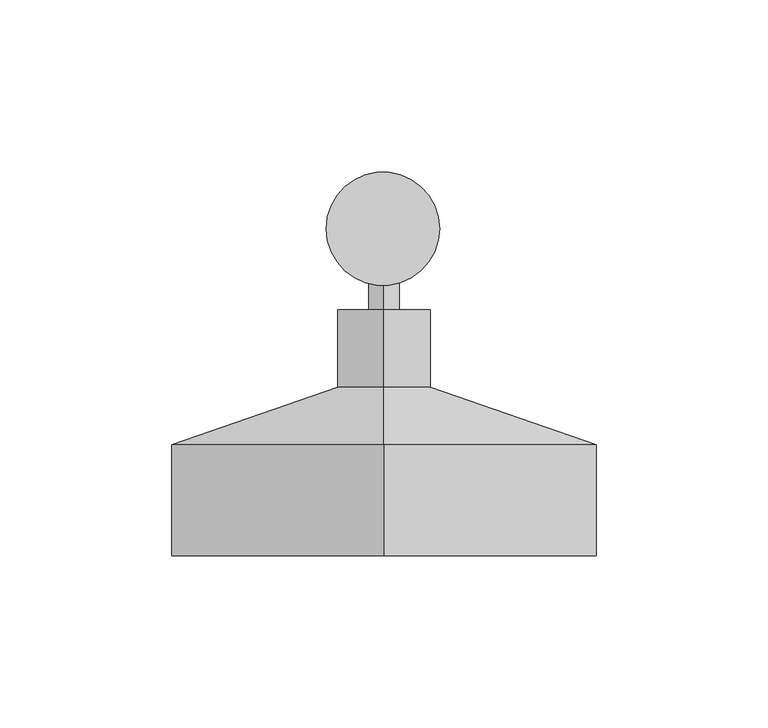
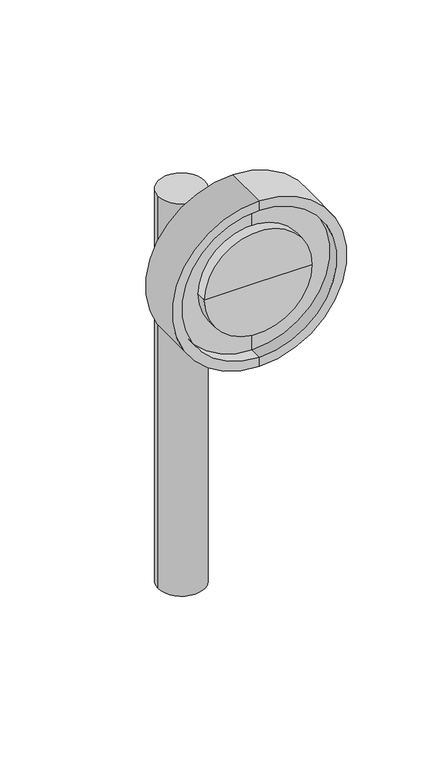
"""IFC4 building model written with IfcOpenShell, lengths in millimetres: flow terminal geometry, Deca_Chuveiro de Parede_AcquaPlus_1990.C.CT : 1990.C.CT."""

from ifc_helpers import new_model, si_unit, point, frame, frame_2d, origin, origin_with_axes, place, context, project, spatial, polyline, circle_curve, ellipse_curve, trimmed, segment, composite_curve, outline, extrude, source, transform, mapped, element, save
from ifc_brep_helpers import plane_surface, cylinder_surface, revolved_surface, advanced_brep


def flow_terminal_de63d3b9(model_context):
    return source(origin(), model_context, "Body", "SolidModel", [
        extrude(outline(composite_curve([segment(trimmed(circle_curve(frame_2d((0.0610987, 0.3797373)), 16.4815209), [point((-16.4204222, 0.3797373))], [point((16.5426197, 0.3797373))], False, "CARTESIAN"), True, "CONTINUOUS"), segment(trimmed(circle_curve(frame_2d((0.0610987, 0.3797373)), 16.4815209), [point((16.5426197, 0.3797373))], [point((-16.4204222, 0.3797373))], False, "CARTESIAN"), True, "CONTINUOUS")], self_intersect=False)), origin_with_axes(), (0.0, 0.0, 1.0), 293.6487953),
        advanced_brep(
        [(0.3802785, -13.896851, 280.0), (0.3802785, -12.9861585, 285.1647936), (0.3802785, -14.8075434, 274.8352064), (0.3802785, -27.1698069, 277.7761711), (0.3802785, -25.6087554, 286.6293339), (0.3802785, -26.3892811, 282.2027525), (0.3802785, -15.4155889, 275.7035853), (0.3802785, -13.8545374, 284.5567482)],
        [
            (0, 1),
            (1, 2, circle_curve(frame((0.3802785, -13.896851, 280.0), z_axis=(0.0, 0.9848077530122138, -0.1736481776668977), x_axis=(0.0, 0.1736481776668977, 0.9848077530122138)), 5.2444689)),
            (2, 0),
            (2, 1, circle_curve(frame((0.3802785, -13.896851, 280.0), z_axis=(0.0, 0.9848077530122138, -0.1736481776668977), x_axis=(0.0, 0.1736481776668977, 0.9848077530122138)), 5.2444689)),
            (3, 4, circle_curve(frame((0.3802785, -26.3892811, 282.2027525), z_axis=(0.0, -0.9848077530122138, 0.1736481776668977), x_axis=(0.0, 0.1736481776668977, 0.9848077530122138)), 4.4948686)),
            (4, 5),
            (5, 3),
            (4, 3, circle_curve(frame((0.3802785, -26.3892811, 282.2027525), z_axis=(0.0, -0.9848077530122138, 0.1736481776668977), x_axis=(0.0, 0.1736481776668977, 0.9848077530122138)), 4.4948686)),
            (6, 7, circle_curve(frame((0.3802785, -14.6350631, 280.1301667), z_axis=(0.0, -0.9848077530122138, 0.1736481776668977), x_axis=(0.0, 0.1736481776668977, 0.9848077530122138)), 4.4948686)),
            (7, 4),
            (3, 6),
            (7, 6, circle_curve(frame((0.3802785, -14.6350631, 280.1301667), z_axis=(0.0, -0.9848077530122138, 0.1736481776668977), x_axis=(0.0, 0.1736481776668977, 0.9848077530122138)), 4.4948686)),
            (1, 7, circle_curve(frame((0.3802785, -13.8545374, 285.4808577), z_axis=(-1.0, 0.0, 0.0), x_axis=(0.0, 0.0, -1.0)), 0.9241095)),
            (6, 2, circle_curve(frame((0.3802785, -15.731653, 274.8352064), z_axis=(-1.0, 0.0, 0.0), x_axis=(0.0, 0.34202014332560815, 0.9396926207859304)), 0.9241095)),
        ],
        [
            plane_surface(frame((0.3802785, -13.896851, 280.0), z_axis=(0.0, 0.9848077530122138, -0.1736481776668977), x_axis=(0.0, 0.1736481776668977, 0.9848077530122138))),
            plane_surface(frame((0.3802785, -26.3892811, 282.2027525), z_axis=(0.0, -0.9848077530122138, 0.1736481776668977), x_axis=(0.0, 0.1736481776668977, 0.9848077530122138))),
            cylinder_surface(frame((0.3802785, -13.896851, 280.0), z_axis=(0.0, 0.9848077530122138, -0.1736481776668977), x_axis=(0.0, 0.1736481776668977, 0.9848077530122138)), 4.4948686),
            revolved_surface(trimmed(ellipse_curve(frame((0.3802785, -13.8545374, 285.4808577), z_axis=(1.0, 0.0, 0.0), x_axis=(0.0, 0.0, -1.0)), 0.9241095, 0.9241095), [point((0.3802785, -13.8545374, 284.5567482))], [point((0.3802785, -12.9861585, 285.1647936))], True, "CARTESIAN"), (0.3802785, -13.896851, 280.0), (0.0, 0.9848077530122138, -0.1736481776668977)),
        ],
        [
            (0, [[1, 2, 3]]),
            (0, [[-3, 4, -1]]),
            (1, [[5, 6, 7]]),
            (1, [[8, -7, -6]]),
            (2, [[9, 10, -5, 11]]),
            (2, [[12, -11, -8, -10]]),
            (3, [[-2, 13, -9, 14]]),
            (3, [[-4, -14, -12, -13]]),
        ],
    ),
        advanced_brep(
        [(38.6124304, -93.2870622, 280.0), (-37.8518734, -93.2870622, 280.0), (-37.8518734, -85.8059835, 280.0), (38.6124304, -85.8059835, 280.0), (0.3802785, -93.2870622, 280.0), (0.3802785, -85.8059835, 280.0)],
        [
            (0, 1, circle_curve(frame((0.3802785, -93.2870622, 280.0), z_axis=(0.0, 1.0, 0.0), x_axis=(-1.0, 0.0, 0.0)), 38.2321519)),
            (1, 2),
            (2, 3, circle_curve(frame((0.3802785, -85.8059835, 280.0), z_axis=(0.0, -1.0, 0.0), x_axis=(-1.0, 0.0, 0.0)), 38.2321519)),
            (3, 0),
            (1, 0, circle_curve(frame((0.3802785, -93.2870622, 280.0), z_axis=(0.0, 1.0, 0.0), x_axis=(-1.0, 0.0, 0.0)), 38.2321519)),
            (3, 2, circle_curve(frame((0.3802785, -85.8059835, 280.0), z_axis=(0.0, -1.0, 0.0), x_axis=(-1.0, 0.0, 0.0)), 38.2321519)),
            (4, 1),
            (0, 4),
            (2, 5),
            (5, 3),
        ],
        [
            cylinder_surface(frame((0.3802785, -80.8059835, 280.0), z_axis=(0.0, -1.0, 0.0), x_axis=(-1.0, 0.0, 0.0)), 38.2321519),
            plane_surface(frame((0.3802785, -93.2870622, 280.0), z_axis=(0.0, -1.0, 0.0), x_axis=(-1.0, 0.0, 0.0))),
            plane_surface(frame((0.3802785, -85.8059835, 280.0), z_axis=(0.0, 1.0, 0.0), x_axis=(-1.0, 0.0, 0.0))),
        ],
        [
            (0, [[1, 2, 3, 4]]),
            (0, [[5, -4, 6, -2]]),
            (1, [[7, -1, 8]]),
            (1, [[-8, -5, -7]]),
            (2, [[-3, 9, 10]]),
            (2, [[-6, -10, -9]]),
        ],
    ),
        advanced_brep(
        [(0.3802785, -23.1309694, 280.0), (0.3802785, -23.1309694, 293.4773074), (0.3802785, -23.1309694, 266.5226926), (0.3802785, -62.469138, 218.0), (0.3802785, -62.469138, 342.0), (0.3802785, -94.719481, 342.0), (0.3802785, -94.719481, 218.0), (0.3802785, -45.761435, 266.5226926), (0.3802785, -45.761435, 293.4773074), (0.3802785, -85.8059835, 225.0), (0.3802785, -85.8059835, 335.0), (0.3802785, -85.8059835, 280.0), (0.3802785, -94.719481, 225.0), (0.3802785, -94.719481, 335.0)],
        [
            (0, 1),
            (1, 2, circle_curve(frame((0.3802785, -23.1309694, 280.0), z_axis=(0.0, 1.0, 0.0), x_axis=(0.0, 0.0, 1.0)), 13.4773074)),
            (2, 0),
            (2, 1, circle_curve(frame((0.3802785, -23.1309694, 280.0), z_axis=(0.0, 1.0, 0.0), x_axis=(0.0, 0.0, 1.0)), 13.4773074)),
            (3, 4, circle_curve(frame((0.3802785, -62.469138, 280.0), z_axis=(0.0, -1.0, 0.0), x_axis=(0.0, 0.0, 1.0)), 62.0)),
            (4, 5),
            (5, 6, circle_curve(frame((0.3802785, -94.719481, 280.0), z_axis=(0.0, 1.0, 0.0), x_axis=(0.0, 0.0, 1.0)), 62.0)),
            (6, 3),
            (4, 3, circle_curve(frame((0.3802785, -62.469138, 280.0), z_axis=(0.0, -1.0, 0.0), x_axis=(0.0, 0.0, 1.0)), 62.0)),
            (6, 5, circle_curve(frame((0.3802785, -94.719481, 280.0), z_axis=(0.0, 1.0, 0.0), x_axis=(0.0, 0.0, 1.0)), 62.0)),
            (7, 8, circle_curve(frame((0.3802785, -45.761435, 280.0), z_axis=(0.0, -1.0, 0.0), x_axis=(0.0, 0.0, 1.0)), 13.4773074)),
            (8, 4),
            (3, 7),
            (8, 7, circle_curve(frame((0.3802785, -45.761435, 280.0), z_axis=(0.0, -1.0, 0.0), x_axis=(0.0, 0.0, 1.0)), 13.4773074)),
            (1, 8),
            (7, 2),
            (9, 10, circle_curve(frame((0.3802785, -85.8059835, 280.0), z_axis=(0.0, -1.0, 0.0), x_axis=(0.0, 0.0, 1.0)), 55.0)),
            (10, 11),
            (11, 9),
            (10, 9, circle_curve(frame((0.3802785, -85.8059835, 280.0), z_axis=(0.0, -1.0, 0.0), x_axis=(0.0, 0.0, 1.0)), 55.0)),
            (12, 13, circle_curve(frame((0.3802785, -94.719481, 280.0), z_axis=(0.0, -1.0, 0.0), x_axis=(0.0, 0.0, 1.0)), 55.0)),
            (13, 10),
            (9, 12),
            (13, 12, circle_curve(frame((0.3802785, -94.719481, 280.0), z_axis=(0.0, -1.0, 0.0), x_axis=(0.0, 0.0, 1.0)), 55.0)),
            (5, 13),
            (12, 6),
        ],
        [
            plane_surface(frame((0.3802785, -23.1309694, 280.0), z_axis=(0.0, 1.0, 0.0), x_axis=(0.0, 0.0, 1.0))),
            cylinder_surface(frame((0.3802785, -5.547154, 280.0), z_axis=(0.0, 1.0, 0.0), x_axis=(0.0, 0.0, 1.0)), 62.0),
            revolved_surface(polyline([(0.3802785, -62.469138, 342.0), (0.3802785, -45.761435, 293.4773074)]), (0.3802785, -5.547154, 280.0), (0.0, 1.0, 0.0)),
            cylinder_surface(frame((0.3802785, -5.547154, 280.0), z_axis=(0.0, 1.0, 0.0), x_axis=(0.0, 0.0, 1.0)), 13.4773074),
            plane_surface(frame((0.3802785, -85.8059835, 280.0), z_axis=(0.0, -1.0, 0.0), x_axis=(0.0, 0.0, 1.0))),
            revolved_surface(polyline([(0.3802785, -85.8059835, 335.0), (0.3802785, -94.719481, 335.0)]), (0.3802785, -5.547154, 280.0), (0.0, 1.0, 0.0)),
            plane_surface(frame((0.3802785, -94.719481, 280.0), z_axis=(0.0, -1.0, 0.0), x_axis=(0.0, 0.0, 1.0))),
        ],
        [
            (0, [[1, 2, 3]]),
            (0, [[-3, 4, -1]]),
            (1, [[5, 6, 7, 8]]),
            (1, [[9, -8, 10, -6]]),
            (2, [[11, 12, -5, 13]]),
            (2, [[14, -13, -9, -12]]),
            (3, [[-2, 15, -11, 16]]),
            (3, [[-4, -16, -14, -15]]),
            (4, [[17, 18, 19]]),
            (4, [[20, -19, -18]]),
            (5, [[21, 22, -17, 23]]),
            (5, [[24, -23, -20, -22]]),
            (6, [[-7, 25, -21, 26]]),
            (6, [[-10, -26, -24, -25]]),
        ],
    ),
    ])


if __name__ == "__main__":
    model = new_model("IFC4")
    model_context = context("Model", 3, world=origin())
    ifc_project = project(units=[si_unit("LENGTHUNIT", "METRE", prefix="MILLI")], contexts=[model_context])
    site = spatial("IfcSite", under=ifc_project)
    building = spatial("IfcBuilding", under=site)
    placement = place(None, origin())
    flow_terminal_shape = flow_terminal_de63d3b9(model_context)
    element("IfcFlowTerminal", 1, ObjectType="Deca_Chuveiro de Parede_AcquaPlus_1990.C.CT : 1990.C.CT", at=placement, inside=building, context=model_context, shape_type="MappedRepresentation", body=[
        mapped(flow_terminal_shape, transform((0.0, 0.0, 0.0), x_axis=(1.0, 0.0, 0.0), y_axis=(0.0, 1.0, 0.0), z_axis=(0.0, 0.0, 1.0))),
    ])
    save(model, "model.ifc")
